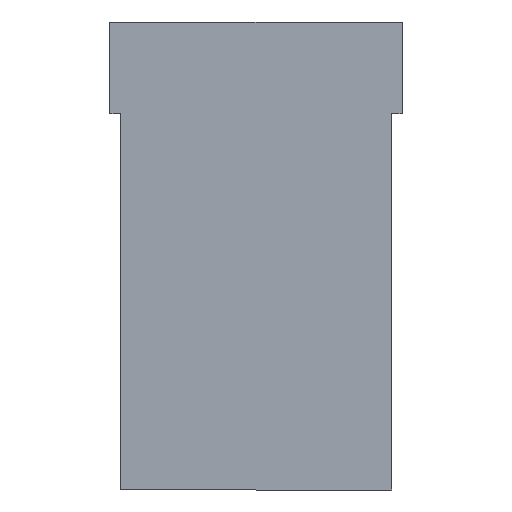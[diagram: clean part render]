
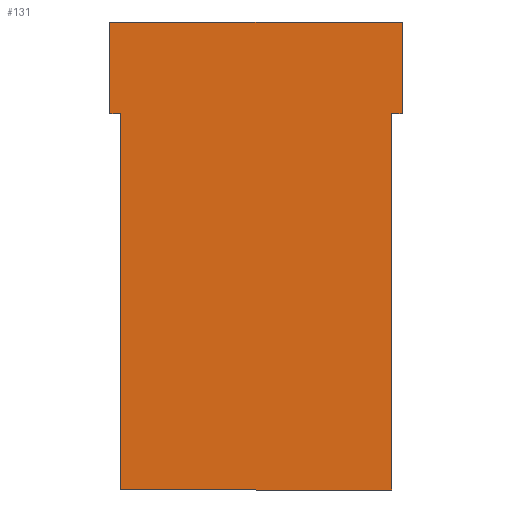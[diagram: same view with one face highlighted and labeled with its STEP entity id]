
A CAD part, left-side view. The second image highlights one B-rep face of the part: STEP entity #131.
In plain terms, the highlighted planar face has unit normal (-1, 0, 0).
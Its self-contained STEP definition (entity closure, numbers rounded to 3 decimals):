
#88 = EDGE_CURVE ( 'NONE', #119, #97, #725, .T. ) ;
#90 = EDGE_LOOP ( 'NONE', ( #133, #153, #134, #150, #132, #136, #155, #154 ) ) ;
#94 = EDGE_CURVE ( 'NONE', #272, #225, #837, .T. ) ;
#97 = VERTEX_POINT ( 'NONE', #747 ) ;
#119 = VERTEX_POINT ( 'NONE', #805 ) ;
#126 = EDGE_CURVE ( 'NONE', #165, #272, #723, .T. ) ;
#131 = ADVANCED_FACE ( 'NONE', ( #719 ), #602, .T. ) ;
#132 = ORIENTED_EDGE ( 'NONE', *, *, #157, .F. ) ;
#133 = ORIENTED_EDGE ( 'NONE', *, *, #220, .F. ) ;
#134 = ORIENTED_EDGE ( 'NONE', *, *, #126, .F. ) ;
#136 = ORIENTED_EDGE ( 'NONE', *, *, #88, .F. ) ;
#144 = VERTEX_POINT ( 'NONE', #689 ) ;
#148 = EDGE_CURVE ( 'NONE', #218, #161, #688, .T. ) ;
#150 = ORIENTED_EDGE ( 'NONE', *, *, #162, .F. ) ;
#153 = ORIENTED_EDGE ( 'NONE', *, *, #94, .F. ) ;
#154 = ORIENTED_EDGE ( 'NONE', *, *, #148, .F. ) ;
#155 = ORIENTED_EDGE ( 'NONE', *, *, #251, .F. ) ;
#157 = EDGE_CURVE ( 'NONE', #97, #144, #713, .T. ) ;
#161 = VERTEX_POINT ( 'NONE', #793 ) ;
#162 = EDGE_CURVE ( 'NONE', #144, #165, #702, .T. ) ;
#165 = VERTEX_POINT ( 'NONE', #789 ) ;
#218 = VERTEX_POINT ( 'NONE', #963 ) ;
#220 = EDGE_CURVE ( 'NONE', #225, #218, #957, .T. ) ;
#225 = VERTEX_POINT ( 'NONE', #1083 ) ;
#251 = EDGE_CURVE ( 'NONE', #161, #119, #1013, .T. ) ;
#272 = VERTEX_POINT ( 'NONE', #993 ) ;
#602 = PLANE ( 'NONE',  #711 ) ;
#636 = DIRECTION ( 'NONE',  ( 0., 0., 1. ) ) ;
#687 = CARTESIAN_POINT ( 'NONE',  ( -17., -18.2, -11.4 ) ) ;
#688 = LINE ( 'NONE', #687, #796 ) ;
#689 = CARTESIAN_POINT ( 'NONE',  ( -17., 16.9, -58.3 ) ) ;
#702 = LINE ( 'NONE', #794, #802 ) ;
#703 = DIRECTION ( 'NONE',  ( 0., 0., 1. ) ) ;
#704 = DIRECTION ( 'NONE',  ( -1., 0., 0. ) ) ;
#711 = AXIS2_PLACEMENT_3D ( 'NONE', #825, #704, #703 ) ;
#712 = CARTESIAN_POINT ( 'NONE',  ( -17., 16.9, -58.3 ) ) ;
#713 = LINE ( 'NONE', #712, #791 ) ;
#719 = FACE_OUTER_BOUND ( 'NONE', #90, .T. ) ;
#720 = DIRECTION ( 'NONE',  ( 0., 1., 0. ) ) ;
#721 = VECTOR ( 'NONE', #720, 1000. ) ;
#722 = CARTESIAN_POINT ( 'NONE',  ( -17., 16.9, -11.4 ) ) ;
#723 = LINE ( 'NONE', #722, #721 ) ;
#725 = LINE ( 'NONE', #840, #839 ) ;
#747 = CARTESIAN_POINT ( 'NONE',  ( -17., -16.9, -58.3 ) ) ;
#789 = CARTESIAN_POINT ( 'NONE',  ( -17., 16.9, -11.4 ) ) ;
#790 = DIRECTION ( 'NONE',  ( 0., 1., 0. ) ) ;
#791 = VECTOR ( 'NONE', #790, 1000. ) ;
#793 = CARTESIAN_POINT ( 'NONE',  ( -17., -18.2, -11.4 ) ) ;
#794 = CARTESIAN_POINT ( 'NONE',  ( -17., 16.9, -58.3 ) ) ;
#795 = DIRECTION ( 'NONE',  ( 0., 0., -1. ) ) ;
#796 = VECTOR ( 'NONE', #795, 1000. ) ;
#802 = VECTOR ( 'NONE', #636, 1000. ) ;
#805 = CARTESIAN_POINT ( 'NONE',  ( -17., -16.9, -11.4 ) ) ;
#823 = DIRECTION ( 'NONE',  ( 0., 0., 1. ) ) ;
#824 = VECTOR ( 'NONE', #823, 1000. ) ;
#825 = CARTESIAN_POINT ( 'NONE',  ( -17., -18.2, 0. ) ) ;
#836 = CARTESIAN_POINT ( 'NONE',  ( -17., 18.2, -11.4 ) ) ;
#837 = LINE ( 'NONE', #836, #824 ) ;
#838 = DIRECTION ( 'NONE',  ( 0., 0., -1. ) ) ;
#839 = VECTOR ( 'NONE', #838, 1000. ) ;
#840 = CARTESIAN_POINT ( 'NONE',  ( -17., -16.9, -58.3 ) ) ;
#939 = VECTOR ( 'NONE', #1082, 1000. ) ;
#956 = CARTESIAN_POINT ( 'NONE',  ( -17., 18.2, 0. ) ) ;
#957 = LINE ( 'NONE', #956, #939 ) ;
#963 = CARTESIAN_POINT ( 'NONE',  ( -17., -18.2, 0. ) ) ;
#993 = CARTESIAN_POINT ( 'NONE',  ( -17., 18.2, -11.4 ) ) ;
#1004 = DIRECTION ( 'NONE',  ( 0., 1., 0. ) ) ;
#1005 = VECTOR ( 'NONE', #1004, 1000. ) ;
#1006 = CARTESIAN_POINT ( 'NONE',  ( -17., -16.9, -11.4 ) ) ;
#1013 = LINE ( 'NONE', #1006, #1005 ) ;
#1082 = DIRECTION ( 'NONE',  ( 0., -1., 0. ) ) ;
#1083 = CARTESIAN_POINT ( 'NONE',  ( -17., 18.2, 0. ) ) ;
